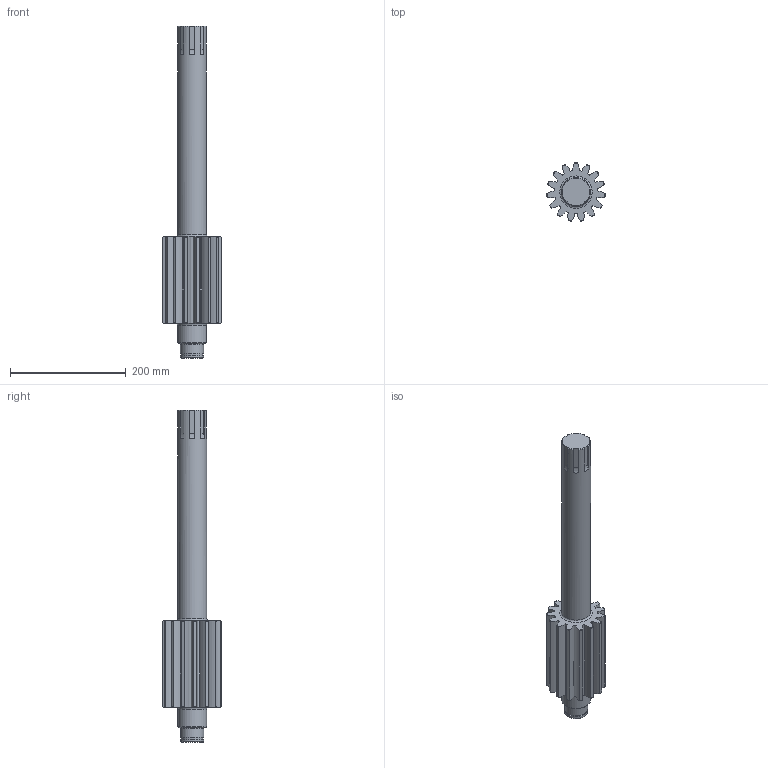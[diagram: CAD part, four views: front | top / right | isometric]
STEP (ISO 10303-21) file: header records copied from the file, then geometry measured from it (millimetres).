
FILE_DESCRIPTION(/* description */ (''),/* implementation_level */ '2;1');
FILE_NAME(/* name */ 'C:\Users\jbart\OneDrive\Plocha\Nová složka\3D modely - stp\Hřídel II.stp',/* time_stamp */ '2025-05-15T16:48:30+02:00',/* author */ ('jbart'),/* organization */ (''),/* preprocessor_version */ 'ST-DEVELOPER v18.1',/* originating_system */ 'Autodesk Inventor 2022',/* authorisation */ '');
FILE_SCHEMA (('AUTOMOTIVE_DESIGN { 1 0 10303 214 3 1 1 }'));
Length unit declared in the file: millimetre
Products named in the file (3): Hřídel II; Čelní ozubená kola; Čelní ozubené kolo1
Assembly tree (2 placements, depth 3):
  Hřídel II
    Čelní ozubená kola
      Čelní ozubené kolo1
Bounding box: 101.85 x 101.35 x 574 mm (x, y, z)
Volume: 1756102.9 mm3; surface area: 164231.3 mm2
Topology: 1 solids, 1 shells, 147 faces, 427 edges, 287 vertices
Faces by surface type: cylinder 73, cone 40, plane 31, torus 3
Full cylindrical faces by diameter (mm): 37.5 x1, 40 x2, 50 x2
Entity records: 5282 total; most frequent: CARTESIAN_POINT 1279, ORIENTED_EDGE 854, DIRECTION 845, EDGE_CURVE 427, AXIS2_PLACEMENT_3D 357, VERTEX_POINT 287, CIRCLE 204, EDGE_LOOP 152
